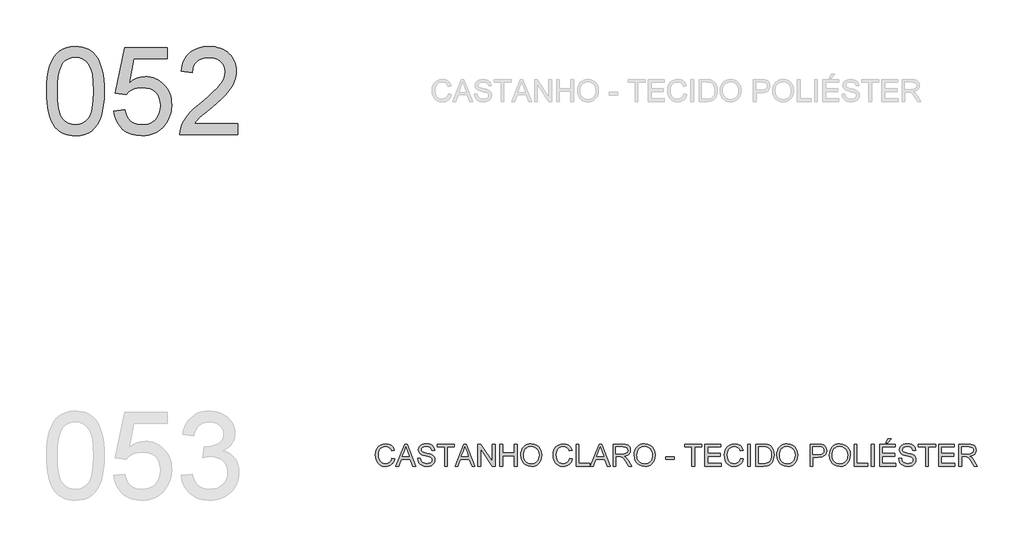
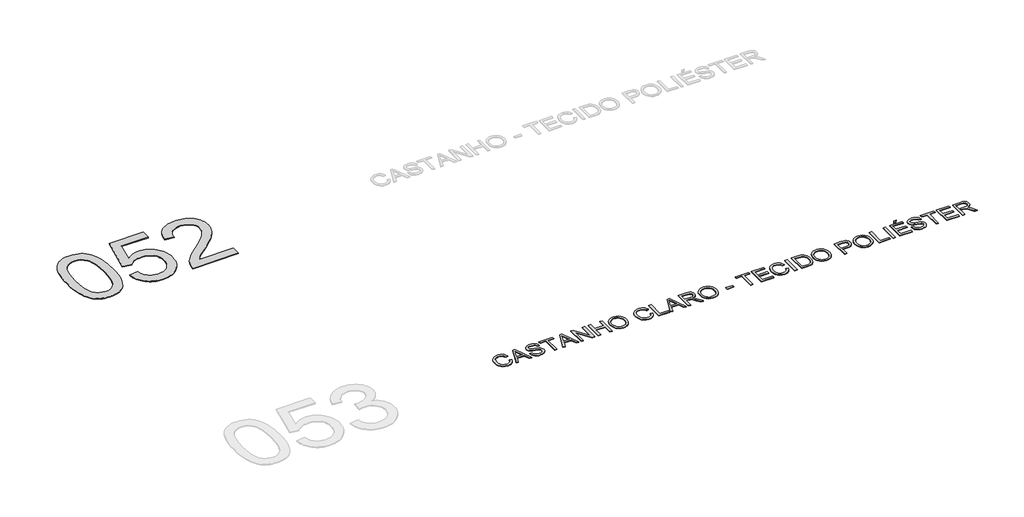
# One storey, part 22 of 35: 2 proxies.
"""IFC4 building model written with IfcOpenShell, lengths in millimetres."""

from ifc_helpers import new_model, si_unit, origin, origin_with_axes, place, context, project, spatial, polyline, outline, extrude, element, save

model = new_model("IFC4")

# Units and contexts
model_context = context("Model", 3, world=origin())
ifc_project = project(units=[si_unit("LENGTHUNIT", "METRE", prefix="MILLI")], contexts=[model_context])

# Site, building, storey
site = spatial("IfcSite", under=ifc_project)
building = spatial("IfcBuilding", under=site)
storey = spatial("IfcBuildingStorey", under=building, Name="Marelli - Linha YOU - Planta Baixa", Elevation=0.0)

# Proxies
placement = place(None, origin())
element("IfcBuildingElementProxy", 1, Name="1200mm Arial", ObjectType="1200mm Arial", at=placement, inside=storey, context=model_context, shape_type="SweptSolid", body=[
    extrude(outline(polyline([(-25228.2202746, -29887.5405438), (-25225.4519626, -29786.1798571), (-25217.1470265, -29694.5864374), (-25203.3054665, -29612.7602846), (-25183.9272824, -29540.7013988), (-25159.0952477, -29477.8211688), (-25128.8921359, -29423.5309833), (-25093.317947, -29377.8308425), (-25052.3726809, -29340.7207462), (-25005.918382, -29312.0075565), (-24953.8170944, -29291.4981353), (-24896.0688182, -29279.1924825), (-24832.6735534, -29275.0905983), (-24785.032835, -29277.5186194), (-24739.8201378, -29284.8026829), (-24697.0354618, -29296.9427888), (-24656.6788069, -29313.938937), (-24619.7250605, -29335.5060189), (-24587.1491098, -29361.3589261), (-24558.9509549, -29391.4976586), (-24535.1305957, -29425.9222163), (-24514.4924157, -29464.4946435), (-24495.8407986, -29507.0769844), (-24464.4972526, -29604.2714076), (-24452.5226937, -29661.4310726), (-24443.9694373, -29727.6958169), (-24438.8374834, -29803.0656407), (-24437.1268322, -29887.5405438), (-24439.867553, -29988.2574371), (-24448.0897156, -30079.3910043), (-24461.7933199, -30160.9412456), (-24480.978366, -30232.9081609), (-24505.6172626, -30295.8159821), (-24535.6824187, -30350.188941), (-24571.1738342, -30396.0270376), (-24612.0915091, -30433.3302719), (-24658.6009903, -30462.2365997), (-24710.8678248, -30482.8839766), (-24768.8920125, -30495.2724028), (-24832.6735534, -30499.4018782), (-24875.3478648, -30497.6084535), (-24915.6677315, -30492.2281793), (-24953.6331534, -30483.2610557), (-24989.2441305, -30470.7070826), (-25022.5006629, -30454.5662601), (-25053.4027505, -30434.8385881), (-25081.9503933, -30411.5240666), (-25108.1435914, -30384.6226957), (-25136.286564, -30342.0265592), (-25160.6771403, -30293.8478134), (-25181.3153202, -30240.0864583), (-25198.2011038, -30180.742494), (-25211.334491, -30115.8159204), (-25220.7154819, -30045.3067375), (-25226.3440764, -29969.2149453), (-25228.2202746, -29887.5405438)]), holes=[polyline([(-25077.5358094, -29887.2462382), (-25073.1212254, -30018.2398197), (-25059.8774736, -30124.2726077), (-25049.9446597, -30167.9287043), (-25037.8045539, -30205.3446024), (-25023.4571561, -30236.5203023), (-25006.9024663, -30261.4558037), (-24969.5256556, -30299.6327578), (-24928.0285665, -30326.9020107), (-24882.4111991, -30343.2635624), (-24832.6735534, -30348.717413), (-24782.9359076, -30343.2451683), (-24737.3185402, -30326.8284343), (-24695.8214512, -30299.4672109), (-24658.4446405, -30261.1614981), (-24641.8899507, -30236.1662158), (-24627.5425529, -30204.9583263), (-24615.402447, -30167.5378296), (-24605.4696332, -30123.9047257), (-24592.2258813, -30018.0006964), (-24587.8112974, -29887.2462382), (-24592.0787285, -29759.7199446), (-24604.881022, -29655.5541577), (-24614.482742, -29612.2314542), (-24626.2181777, -29574.7488774), (-24640.0873289, -29543.1064273), (-24656.0901957, -29517.3041039), (-24692.841607, -29477.2601487), (-24734.8169427, -29448.6573236), (-24782.0162026, -29431.4956285), (-24834.4393869, -29425.7750635), (-24883.9195153, -29430.8150468), (-24928.7643305, -29445.9349968), (-24968.9738326, -29471.1349135), (-25004.5480215, -29506.4147968), (-25021.6545343, -29534.9624397), (-25036.4801787, -29568.954736), (-25049.0249547, -29608.3916859), (-25059.2888624, -29653.2732893), (-25072.9740726, -29759.3704567), (-25077.5358094, -29887.2462382)])]), origin_with_axes(), (0.0, 0.0, 1.0), 10.0),
    extrude(outline(polyline([(-24305.2779251, -30160.3618315), (-24154.5934599, -30141.5262733), (-24143.3362708, -30189.967135), (-24126.9287338, -30231.9884559), (-24105.3708489, -30267.590236), (-24078.6626161, -30296.7724753), (-24046.8592176, -30319.4983855), (-24010.0158358, -30335.7311786), (-23968.1324706, -30345.4708544), (-23921.2091221, -30348.717413), (-23863.8195309, -30344.2016615), (-23813.1989683, -30330.654407), (-23769.3474345, -30308.0756496), (-23732.2649294, -30276.4653891), (-23702.7791875, -30237.3871242), (-23681.7179433, -30192.4043532), (-23669.0811967, -30141.5170763), (-23664.8689479, -30084.7252933), (-23668.8144823, -30031.0513102), (-23680.6510855, -29983.3370154), (-23700.3787575, -29941.5824089), (-23727.9974983, -29905.7874908), (-23763.5992783, -29877.0743011), (-23807.2760682, -29856.5648798), (-23859.0278679, -29844.2592271), (-23918.8546774, -29840.1573429), (-23957.141996, -29841.7944177), (-23991.9528298, -29846.7056424), (-24023.2871787, -29854.8910168), (-24051.1450428, -29866.3505409), (-24098.4178792, -29896.4432881), (-24135.7579017, -29934.3351336), (-24286.4423669, -29915.4995755), (-24154.5934599, -29293.9261564), (-23570.6911571, -29293.9261564), (-23570.6911571, -29444.6106216), (-24032.7509431, -29444.6106216), (-24097.2038686, -29776.5873341), (-24044.0265262, -29738.4747594), (-23989.5615968, -29711.2514918), (-23933.8090805, -29694.9175312), (-23876.7689771, -29689.4728776), (-23839.3300863, -29691.1605363), (-23803.3857161, -29696.2235123), (-23768.9358665, -29704.6618055), (-23735.9805376, -29716.4754161), (-23704.5197292, -29731.664344), (-23674.5534414, -29750.2285891), (-23646.0816742, -29772.1681516), (-23619.1044277, -29797.4830314), (-23594.5138156, -29825.4512601), (-23573.2019517, -29855.3508693), (-23555.1688362, -29887.1818589), (-23540.4144689, -29920.944229), (-23528.9388499, -29956.6379796), (-23520.7419792, -29994.2631106), (-23515.8238568, -30033.8196222), (-23514.1844827, -30075.3075142), (-23520.0889887, -30153.3720736), (-23527.4696212, -30190.3626082), (-23537.8025067, -30225.9919794), (-23551.0876453, -30260.2601873), (-23567.3250369, -30293.1672317), (-23586.5146814, -30324.7131128), (-23608.656579, -30354.8978305), (-23638.6573557, -30388.7659667), (-23671.2700946, -30418.1183514), (-23706.4947956, -30442.9549846), (-23744.3314588, -30463.2758663), (-23784.7800842, -30479.0809965), (-23827.8406717, -30490.3703752), (-23873.5132214, -30497.1440025), (-23921.7977333, -30499.4018782), (-23999.55879, -30493.5985397), (-24035.6181234, -30486.3443667), (-24069.79666, -30476.1885243), (-24102.0943999, -30463.1310128), (-24132.5113431, -30447.171832), (-24161.0474896, -30428.3109819), (-24187.7028394, -30406.5484626), (-24212.0405327, -30382.3901119), (-24233.6237095, -30356.3417673), (-24252.4523698, -30328.4034291), (-24268.5265138, -30298.5750971), (-24281.8461413, -30266.8567713), (-24292.4112523, -30233.2484518), (-24305.2779251, -30160.3618315)])), origin_with_axes(), (0.0, 0.0, 1.0), 10.0),
    extrude(outline(polyline([(-22610.0776913, -30329.8818548), (-22610.0776913, -30480.5663201), (-23401.1711337, -30480.5663201), (-23397.8601958, -30427.5177364), (-23384.984326, -30376.6764446), (-23368.5583949, -30335.7771638), (-23347.8282444, -30295.4848883), (-23322.7938747, -30255.7996181), (-23293.4552856, -30216.7213531), (-23258.0466435, -30176.7233832), (-23214.802115, -30134.278998), (-23104.8053984, -30042.0509818), (-23015.3732854, -29965.1084625), (-22942.2015566, -29897.6205105), (-22885.2902119, -29839.5871258), (-22844.6392514, -29791.0083083), (-22816.1835791, -29747.4510801), (-22795.8580989, -29704.482463), (-22783.6628107, -29662.1024572), (-22779.5977147, -29620.3110625), (-22783.4328845, -29580.9936743), (-22794.9383939, -29544.8584653), (-22814.1142429, -29511.9054356), (-22840.9604315, -29482.1345852), (-22873.9870376, -29457.4772944), (-22911.7041392, -29439.8649439), (-22954.1117362, -29429.2975336), (-23001.2098286, -29425.7750635), (-23050.8279127, -29429.2147602), (-23095.2036784, -29439.5338501), (-23134.3371256, -29456.7323334), (-23168.2282544, -29480.81021), (-23195.6446601, -29510.9581395), (-23215.353938, -29546.3667815), (-23227.3560881, -29587.0361361), (-23231.6511104, -29632.9662032), (-23382.3355756, -29614.130645), (-23369.3769323, -29536.3419971), (-23358.9175873, -29501.1310917), (-23345.8048935, -29468.3757985), (-23330.0388507, -29438.0761177), (-23311.6194591, -29410.2320492), (-23290.5467185, -29384.843593), (-23266.8206291, -29361.9107491), (-23240.6987082, -29341.5622763), (-23212.4384732, -29323.9269331), (-23182.0399241, -29309.0047197), (-23149.5030608, -29296.795636), (-23078.0143921, -29280.5168577), (-22997.972467, -29275.0905983), (-22917.213172, -29281.123863), (-22880.1651559, -29288.6654439), (-22845.3382272, -29299.2236572), (-22812.7323861, -29312.7985028), (-22782.3476326, -29329.3899808), (-22754.1839666, -29348.9980911), (-22728.2413882, -29371.6228338), (-22704.9613557, -29396.4824596), (-22684.7853275, -29422.7952193), (-22667.7133036, -29450.5611129), (-22653.7452841, -29479.7801404), (-22642.881269, -29510.4523017), (-22635.1212581, -29542.577597), (-22630.4652516, -29576.1560261), (-22628.9132495, -29611.1875891), (-22630.5871125, -29647.3779803), (-22635.6087018, -29683.2556719), (-22643.9780172, -29718.8206638), (-22655.6950587, -29754.072956), (-22671.3024524, -29789.6287508), (-22691.342824, -29826.1042506), (-22744.7225015, -29901.8143653), (-22781.5566863, -29943.798898), (-22829.813607, -29992.2029715), (-22960.5956563, -30108.2697409), (-23133.9416524, -30253.215247), (-23171.5391924, -30291.4381863), (-23201.9262452, -30329.8818548), (-22610.0776913, -30329.8818548)])), origin_with_axes(), (0.0, 0.0, 1.0), 10.0),
])
element("IfcBuildingElementProxy", 2, Name="300mm Arial", ObjectType="300mm Arial", at=placement, inside=storey, context=model_context, shape_type="SweptSolid", body=[
    extrude(outline(polyline([(-20494.6928783, -34923.4390831), (-20457.021762, -34933.1511677), (-20464.4759709, -34956.5783531), (-20474.4041863, -34977.0486868), (-20486.806408, -34994.5621691), (-20501.6826362, -35009.1187997), (-20518.6971785, -35020.5622291), (-20537.5143426, -35028.7361071), (-20558.1341284, -35033.640434), (-20580.556536, -35035.2752096), (-20624.25172, -35030.3271968), (-20658.9521892, -35015.4831583), (-20685.5500574, -34991.2581289), (-20704.9374386, -34958.1671434), (-20716.7740418, -34919.2636224), (-20720.7195762, -34877.6009865), (-20716.259007, -34833.6574821), (-20702.8772994, -34795.7104543), (-20681.2734292, -34764.9647166), (-20652.1463723, -34742.6250824), (-20617.6022529, -34729.0226457), (-20579.7471956, -34724.4885001), (-20538.4432446, -34730.3562179), (-20520.4745084, -34737.6908652), (-20504.2945984, -34747.9593714), (-20490.170229, -34760.8904235), (-20478.3681148, -34776.2127086), (-20461.7306515, -34814.0309777), (-20499.4017679, -34823.0072984), (-20512.4615787, -34795.5357104), (-20530.3038554, -34776.6909552), (-20553.1493273, -34765.7924511), (-20581.2187236, -34762.1596164), (-20613.5739451, -34766.1879242), (-20640.1534192, -34778.2728478), (-20660.3225496, -34797.1451941), (-20673.4467398, -34821.5357704), (-20680.6480298, -34849.1085259), (-20683.0484598, -34877.5274101), (-20680.2065714, -34912.3290468), (-20671.6809062, -34942.421794), (-20657.1495674, -34966.6560205), (-20636.2906583, -34983.8820949), (-20611.2838796, -34994.1735937), (-20584.3089323, -34997.6040933), (-20552.8642188, -34992.931992), (-20526.6618237, -34978.9156879), (-20506.8789694, -34955.702334), (-20494.6928783, -34923.4390831)])), origin_with_axes(), (0.0, 0.0, 1.0), 10.0),
    extrude(outline(polyline([(-20440.3199194, -35030.5663201), (-20320.022507, -34729.1973896), (-20287.943197, -34729.1973896), (-20167.6457846, -35030.5663201), (-20207.4506165, -35030.5663201), (-20241.9579476, -34936.3885293), (-20366.0813328, -34936.3885293), (-20400.5150876, -35030.5663201), (-20440.3199194, -35030.5663201)]), holes=[polyline([(-20352.2489698, -34898.717413), (-20255.7167342, -34898.717413), (-20282.8664255, -34824.6259792), (-20303.982852, -34766.8685059), (-20322.7448338, -34818.1512561), (-20352.2489698, -34898.717413)])]), origin_with_axes(), (0.0, 0.0, 1.0), 10.0),
    extrude(outline(polyline([(-20141.5261629, -34926.9707502), (-20103.8550466, -34926.9707502), (-20099.5324332, -34947.8756446), (-20091.7149408, -34964.6786547), (-20079.5196527, -34978.0143771), (-20062.063652, -34988.517408), (-20040.7264963, -34995.332422), (-20016.887743, -34997.6040933), (-19995.9000752, -34995.884245), (-19977.5243695, -34990.7247), (-19962.6343457, -34982.5577197), (-19952.1037236, -34971.8155654), (-19945.8405327, -34959.4823215), (-19943.7528023, -34946.5420724), (-19945.3163008, -34933.932917), (-19950.0067963, -34923.0344129), (-19959.5349399, -34913.7361954), (-19975.6113831, -34905.9279001), (-20030.4625886, -34891.5437141), (-20066.4690389, -34882.0247675), (-20089.5076488, -34872.9656733), (-20108.2604335, -34860.2921386), (-20121.5501706, -34844.9330653), (-20129.4688306, -34827.2195472), (-20132.1083839, -34807.4826782), (-20128.8434312, -34785.4189555), (-20119.048573, -34764.845155), (-20102.9813269, -34747.4075484), (-20080.8992101, -34734.7524077), (-20054.3933124, -34727.054477), (-20025.0547233, -34724.4885001), (-19993.2697189, -34727.1740386), (-19965.4578401, -34735.2306543), (-19942.6123682, -34748.4928003), (-19925.7265846, -34766.7949295), (-19915.0396126, -34788.9966079), (-19910.7905756, -34813.9574013), (-19948.4616919, -34813.9574013), (-19955.3778734, -34791.4798114), (-19969.7988476, -34775.2562154), (-19992.3316198, -34765.4337661), (-20023.5831953, -34762.1596164), (-20055.5705348, -34765.3969779), (-20077.5146958, -34775.1090626), (-20090.2066246, -34789.4012781), (-20094.4372676, -34806.3790322), (-20091.4390293, -34820.8551887), (-20082.4443145, -34832.4986539), (-20061.1807352, -34842.9097143), (-20020.9344449, -34853.541504), (-19979.4005677, -34863.6398648), (-19954.2742274, -34872.4506385), (-19932.7991159, -34886.1174547), (-19917.8171217, -34902.9848441), (-19909.0155449, -34922.868866), (-19906.081686, -34945.5855792), (-19909.4570033, -34968.8081301), (-19919.5829553, -34990.6511236), (-19936.0456745, -35009.4498935), (-19958.4312939, -35023.539774), (-19985.3510589, -35032.3413507), (-20015.416215, -35035.2752096), (-20052.3239762, -35032.1114244), (-20082.7018319, -35022.620069), (-20106.8992702, -35006.764355), (-20125.2657788, -34984.5074943), (-20137.0563967, -34957.3945912), (-20141.5261629, -34926.9707502)])), origin_with_axes(), (0.0, 0.0, 1.0), 10.0),
    extrude(outline(polyline([(-19774.232779, -35030.5663201), (-19774.232779, -34766.8685059), (-19873.1194593, -34766.8685059), (-19873.1194593, -34729.1973896), (-19637.6749824, -34729.1973896), (-19637.6749824, -34766.8685059), (-19736.5616627, -34766.8685059), (-19736.5616627, -35030.5663201), (-19774.232779, -35030.5663201)])), origin_with_axes(), (0.0, 0.0, 1.0), 10.0),
    extrude(outline(polyline([(-19630.3909188, -35030.5663201), (-19510.0935064, -34729.1973896), (-19478.0141964, -34729.1973896), (-19357.716784, -35030.5663201), (-19397.5216159, -35030.5663201), (-19432.028947, -34936.3885293), (-19556.1523322, -34936.3885293), (-19590.586087, -35030.5663201), (-19630.3909188, -35030.5663201)]), holes=[polyline([(-19542.3199692, -34898.717413), (-19445.7877337, -34898.717413), (-19472.9374249, -34824.6259792), (-19494.0538514, -34766.8685059), (-19512.8158332, -34818.1512561), (-19542.3199692, -34898.717413)])]), origin_with_axes(), (0.0, 0.0, 1.0), 10.0),
    extrude(outline(polyline([(-19317.4704938, -35030.5663201), (-19317.4704938, -34729.1973896), (-19277.1506271, -34729.1973896), (-19119.6971331, -34967.9528045), (-19119.6971331, -34729.1973896), (-19082.0260168, -34729.1973896), (-19082.0260168, -35030.5663201), (-19122.3458835, -35030.5663201), (-19279.7993774, -34791.7373288), (-19279.7993774, -35030.5663201), (-19317.4704938, -35030.5663201)])), origin_with_axes(), (0.0, 0.0, 1.0), 10.0),
    extrude(outline(polyline([(-19016.1015633, -35030.5663201), (-19016.1015633, -34729.1973896), (-18978.430447, -34729.1973896), (-18978.430447, -34851.6285176), (-18818.3282027, -34851.6285176), (-18818.3282027, -34729.1973896), (-18780.6570864, -34729.1973896), (-18780.6570864, -35030.5663201), (-18818.3282027, -35030.5663201), (-18818.3282027, -34889.2996339), (-18978.430447, -34889.2996339), (-18978.430447, -35030.5663201), (-19016.1015633, -35030.5663201)])), origin_with_axes(), (0.0, 0.0, 1.0), 10.0),
    extrude(outline(polyline([(-18728.8593015, -34883.8549804), (-18726.3485069, -34848.5061192), (-18718.816123, -34817.213157), (-18706.2621499, -34789.9760937), (-18688.6865876, -34766.7949295), (-18667.1424983, -34748.2858666), (-18642.6829441, -34735.0651074), (-18615.3079251, -34727.1326519), (-18585.0174414, -34724.4885001), (-18545.488521, -34729.454907), (-18510.0430907, -34744.3541278), (-18480.6125311, -34768.1376988), (-18459.1282226, -34799.7571563), (-18445.9948354, -34837.68579), (-18441.6170396, -34880.3968896), (-18446.2247616, -34923.6782064), (-18460.0479276, -34962.140269), (-18482.3231824, -34993.8149087), (-18512.2871709, -35016.733957), (-18547.4290985, -35030.6398965), (-18585.2381706, -35035.2752096), (-18625.3740962, -35030.1524528), (-18661.0218616, -35014.7841825), (-18690.3788448, -34990.5591531), (-18711.6424241, -34958.8661192), (-18724.5550821, -34922.3998164), (-18728.8593015, -34883.8549804)]), holes=[polyline([(-18691.1881852, -34884.2228624), (-18689.3050892, -34909.1974513), (-18683.6558013, -34931.3669401), (-18674.2403215, -34950.7313286), (-18661.0586498, -34967.2906169), (-18645.0350896, -34980.5527628), (-18627.0939446, -34990.0257242), (-18607.2352146, -34995.709501), (-18585.4588997, -34997.6040933), (-18563.3101044, -34995.6911069), (-18543.2168497, -34989.9521478), (-18525.1791356, -34980.3872159), (-18509.1969621, -34966.9963113), (-18496.1118594, -34950.0875351), (-18486.7653575, -34929.9689885), (-18481.1574563, -34906.6406715), (-18479.2881559, -34880.102584), (-18482.4887293, -34846.7540812), (-18492.0904494, -34817.9305269), (-18507.8449958, -34794.358488), (-18529.5040483, -34776.7645316), (-18555.632867, -34765.8108452), (-18584.7967122, -34762.1596164), (-18605.8165697, -34763.9185522), (-18625.3189139, -34769.1953595), (-18643.303745, -34777.9900385), (-18659.7710628, -34790.302589), (-18673.5160538, -34806.7262208), (-18683.3339046, -34827.8541437), (-18689.224615, -34853.6863575), (-18691.1881852, -34884.2228624)])]), origin_with_axes(), (0.0, 0.0, 1.0), 10.0),
    extrude(outline(polyline([(-18060.196987, -34923.4390831), (-18022.5258707, -34933.1511677), (-18029.9800797, -34956.5783531), (-18039.908295, -34977.0486868), (-18052.3105168, -34994.5621691), (-18067.1867449, -35009.1187997), (-18084.2012872, -35020.5622291), (-18103.0184513, -35028.7361071), (-18123.6382371, -35033.640434), (-18146.0606447, -35035.2752096), (-18189.7558287, -35030.3271968), (-18224.4562979, -35015.4831583), (-18251.0541661, -34991.2581289), (-18270.4415473, -34958.1671434), (-18282.2781505, -34919.2636224), (-18286.2236849, -34877.6009865), (-18281.7631157, -34833.6574821), (-18268.3814081, -34795.7104543), (-18246.7775379, -34764.9647166), (-18217.650481, -34742.6250824), (-18183.1063616, -34729.0226457), (-18145.2513043, -34724.4885001), (-18103.9473533, -34730.3562179), (-18085.9786171, -34737.6908652), (-18069.7987071, -34747.9593714), (-18055.6743378, -34760.8904235), (-18043.8722235, -34776.2127086), (-18027.2347603, -34814.0309777), (-18064.9058766, -34823.0072984), (-18077.9656874, -34795.5357104), (-18095.8079642, -34776.6909552), (-18118.6534361, -34765.7924511), (-18146.7228323, -34762.1596164), (-18179.0780538, -34766.1879242), (-18205.6575279, -34778.2728478), (-18225.8266583, -34797.1451941), (-18238.9508485, -34821.5357704), (-18246.1521385, -34849.1085259), (-18248.5525686, -34877.5274101), (-18245.7106802, -34912.3290468), (-18237.1850149, -34942.421794), (-18222.6536761, -34966.6560205), (-18201.794767, -34983.8820949), (-18176.7879884, -34994.1735937), (-18149.8130411, -34997.6040933), (-18118.3683275, -34992.931992), (-18092.1659324, -34978.9156879), (-18072.3830781, -34955.702334), (-18060.196987, -34923.4390831)])), origin_with_axes(), (0.0, 0.0, 1.0), 10.0),
    extrude(outline(polyline([(-17970.7280858, -35030.5663201), (-17970.7280858, -34729.1973896), (-17933.0569695, -34729.1973896), (-17933.0569695, -34992.8952038), (-17782.3725043, -34992.8952038), (-17782.3725043, -35030.5663201), (-17970.7280858, -35030.5663201)])), origin_with_axes(), (0.0, 0.0, 1.0), 10.0),
    extrude(outline(polyline([(-17775.0884408, -35030.5663201), (-17654.7910283, -34729.1973896), (-17622.7117184, -34729.1973896), (-17502.4143059, -35030.5663201), (-17542.2191378, -35030.5663201), (-17576.726469, -34936.3885293), (-17700.8498541, -34936.3885293), (-17735.2836089, -35030.5663201), (-17775.0884408, -35030.5663201)]), holes=[polyline([(-17687.0174911, -34898.717413), (-17590.4852556, -34898.717413), (-17617.6349468, -34824.6259792), (-17638.7513734, -34766.8685059), (-17657.5133551, -34818.1512561), (-17687.0174911, -34898.717413)])]), origin_with_axes(), (0.0, 0.0, 1.0), 10.0),
    extrude(outline(polyline([(-17462.1680157, -35030.5663201), (-17462.1680157, -34729.1973896), (-17332.3056714, -34729.1973896), (-17297.4028671, -34731.2299376), (-17272.0098124, -34737.3275817), (-17253.4501657, -34748.5847708), (-17239.0475856, -34766.0959537), (-17229.8045505, -34787.8101885), (-17226.7235388, -34811.6765329), (-17231.8279014, -34841.3646099), (-17247.1409895, -34865.9759154), (-17258.7407687, -34876.0052983), (-17273.1226554, -34884.0205273), (-17310.2327517, -34894.0085235), (-17288.8220195, -34910.1217548), (-17258.2878139, -34948.8965171), (-17208.0351334, -35030.5663201), (-17251.8130908, -35030.5663201), (-17291.0293115, -34968.0999573), (-17319.3562251, -34926.750021), (-17339.2586411, -34907.2154871), (-17357.1744943, -34900.0417882), (-17379.0266848, -34898.717413), (-17424.4968994, -34898.717413), (-17424.4968994, -35030.5663201), (-17462.1680157, -35030.5663201)]), holes=[polyline([(-17424.4968994, -34861.0462967), (-17340.1783461, -34861.0462967), (-17315.9625137, -34859.7127245), (-17297.1729408, -34855.7120078), (-17283.0278781, -34848.7774322), (-17272.7455764, -34838.6422832), (-17266.4823854, -34826.3826157), (-17264.3946551, -34813.0744845), (-17268.3769777, -34794.6987789), (-17280.3239455, -34779.8915286), (-17300.8793519, -34770.1242616), (-17330.6869906, -34766.8685059), (-17424.4968994, -34766.8685059), (-17424.4968994, -34861.0462967)])]), origin_with_axes(), (0.0, 0.0, 1.0), 10.0),
    extrude(outline(polyline([(-17174.9257538, -34883.8549804), (-17172.4149592, -34848.5061192), (-17164.8825754, -34817.213157), (-17152.3286023, -34789.9760937), (-17134.75304, -34766.7949295), (-17113.2089506, -34748.2858666), (-17088.7493965, -34735.0651074), (-17061.3743775, -34727.1326519), (-17031.0838937, -34724.4885001), (-16991.5549733, -34729.454907), (-16956.1095431, -34744.3541278), (-16926.6789835, -34768.1376988), (-16905.194675, -34799.7571563), (-16892.0612877, -34837.68579), (-16887.683492, -34880.3968896), (-16892.291214, -34923.6782064), (-16906.11438, -34962.140269), (-16928.3896348, -34993.8149087), (-16958.3536233, -35016.733957), (-16993.4955509, -35030.6398965), (-17031.3046229, -35035.2752096), (-17071.4405486, -35030.1524528), (-17107.0883139, -35014.7841825), (-17136.4452971, -34990.5591531), (-17157.7088765, -34958.8661192), (-17170.6215345, -34922.3998164), (-17174.9257538, -34883.8549804)]), holes=[polyline([(-17137.2546375, -34884.2228624), (-17135.3715416, -34909.1974513), (-17129.7222537, -34931.3669401), (-17120.3067739, -34950.7313286), (-17107.1251021, -34967.2906169), (-17091.101542, -34980.5527628), (-17073.1603969, -34990.0257242), (-17053.301667, -34995.709501), (-17031.5253521, -34997.6040933), (-17009.3765567, -34995.6911069), (-16989.283302, -34989.9521478), (-16971.2455879, -34980.3872159), (-16955.2634145, -34966.9963113), (-16942.1783118, -34950.0875351), (-16932.8318099, -34929.9689885), (-16927.2239087, -34906.6406715), (-16925.3546083, -34880.102584), (-16928.5551817, -34846.7540812), (-16938.1569017, -34817.9305269), (-16953.9114482, -34794.358488), (-16975.5705007, -34776.7645316), (-17001.6993194, -34765.8108452), (-17030.8631645, -34762.1596164), (-17051.883022, -34763.9185522), (-17071.3853663, -34769.1953595), (-17089.3701973, -34777.9900385), (-17105.8375151, -34790.302589), (-17119.5825062, -34806.7262208), (-17129.4003569, -34827.8541437), (-17135.2910674, -34853.6863575), (-17137.2546375, -34884.2228624)])]), origin_with_axes(), (0.0, 0.0, 1.0), 10.0),
    extrude(outline(polyline([(-16741.7079163, -34941.0974188), (-16741.7079163, -34903.4263025), (-16623.9856779, -34903.4263025), (-16623.9856779, -34941.0974188), (-16741.7079163, -34941.0974188)])), origin_with_axes(), (0.0, 0.0, 1.0), 10.0),
    extrude(outline(polyline([(-16383.8323114, -35030.5663201), (-16383.8323114, -34766.8685059), (-16482.7189917, -34766.8685059), (-16482.7189917, -34729.1973896), (-16247.2745148, -34729.1973896), (-16247.2745148, -34766.8685059), (-16346.1611951, -34766.8685059), (-16346.1611951, -35030.5663201), (-16383.8323114, -35030.5663201)])), origin_with_axes(), (0.0, 0.0, 1.0), 10.0),
    extrude(outline(polyline([(-16204.894509, -35030.5663201), (-16204.894509, -34729.1973896), (-15988.2855902, -34729.1973896), (-15988.2855902, -34766.8685059), (-16167.2233927, -34766.8685059), (-16167.2233927, -34856.3374072), (-15997.7033693, -34856.3374072), (-15997.7033693, -34894.0085235), (-16167.2233927, -34894.0085235), (-16167.2233927, -34992.8952038), (-15983.5767007, -34992.8952038), (-15983.5767007, -35030.5663201), (-16204.894509, -35030.5663201)])), origin_with_axes(), (0.0, 0.0, 1.0), 10.0),
    extrude(outline(polyline([(-15715.169997, -34923.4390831), (-15677.4988807, -34933.1511677), (-15684.9530896, -34956.5783531), (-15694.8813049, -34977.0486868), (-15707.2835267, -34994.5621691), (-15722.1597549, -35009.1187997), (-15739.1742972, -35020.5622291), (-15757.9914612, -35028.7361071), (-15778.611247, -35033.640434), (-15801.0336547, -35035.2752096), (-15844.7288386, -35030.3271968), (-15879.4293078, -35015.4831583), (-15906.0271761, -34991.2581289), (-15925.4145572, -34958.1671434), (-15937.2511604, -34919.2636224), (-15941.1966948, -34877.6009865), (-15936.7361256, -34833.6574821), (-15923.354418, -34795.7104543), (-15901.7505479, -34764.9647166), (-15872.6234909, -34742.6250824), (-15838.0793716, -34729.0226457), (-15800.2243143, -34724.4885001), (-15758.9203633, -34730.3562179), (-15740.9516271, -34737.6908652), (-15724.7717171, -34747.9593714), (-15710.6473477, -34760.8904235), (-15698.8452334, -34776.2127086), (-15682.2077702, -34814.0309777), (-15719.8788865, -34823.0072984), (-15732.9386973, -34795.5357104), (-15750.7809741, -34776.6909552), (-15773.626446, -34765.7924511), (-15801.6958422, -34762.1596164), (-15834.0510637, -34766.1879242), (-15860.6305379, -34778.2728478), (-15880.7996683, -34797.1451941), (-15893.9238584, -34821.5357704), (-15901.1251485, -34849.1085259), (-15903.5255785, -34877.5274101), (-15900.6836901, -34912.3290468), (-15892.1580249, -34942.421794), (-15877.626686, -34966.6560205), (-15856.7677769, -34983.8820949), (-15831.7609983, -34994.1735937), (-15804.786051, -34997.6040933), (-15773.3413375, -34992.931992), (-15747.1389424, -34978.9156879), (-15727.3560881, -34955.702334), (-15715.169997, -34923.4390831)])), origin_with_axes(), (0.0, 0.0, 1.0), 10.0),
    extrude(outline(polyline([(-15620.9922062, -35030.5663201), (-15620.9922062, -34729.1973896), (-15583.3210899, -34729.1973896), (-15583.3210899, -35030.5663201), (-15620.9922062, -35030.5663201)])), origin_with_axes(), (0.0, 0.0, 1.0), 10.0),
    extrude(outline(polyline([(-15507.9788573, -35030.5663201), (-15507.9788573, -34729.1973896), (-15404.0154055, -34729.1973896), (-15350.2310578, -34733.5383972), (-15326.2083635, -34741.9077126), (-15305.9380655, -34755.0962821), (-15285.0975505, -34778.0521186), (-15270.253512, -34806.5997614), (-15261.3691618, -34840.1873876), (-15258.4077118, -34878.2631741), (-15260.4126686, -34910.6091985), (-15266.4275393, -34939.0740679), (-15275.5878009, -34963.3082943), (-15287.028931, -34982.9623899), (-15300.1991064, -34998.477813), (-15314.5465042, -35010.2960221), (-15331.0184206, -35019.0608107), (-15350.5621516, -35025.4159721), (-15399.0122103, -35030.5663201), (-15507.9788573, -35030.5663201)]), holes=[polyline([(-15470.307741, -34992.8952038), (-15403.6475235, -34992.8952038), (-15376.0747679, -34991.5340404), (-15355.1606765, -34987.4505502), (-15339.3785389, -34980.8838566), (-15327.2016449, -34972.0730828), (-15314.1142429, -34955.7667134), (-15304.2825966, -34934.6594839), (-15298.1297702, -34908.6594239), (-15296.0788281, -34877.6745629), (-15300.0979389, -34836.6189322), (-15312.1552713, -34806.3054558), (-15329.9699569, -34785.4833349), (-15351.2611274, -34772.9017706), (-15372.9293769, -34768.3768221), (-15404.677593, -34766.8685059), (-15470.307741, -34766.8685059), (-15470.307741, -34992.8952038)])]), origin_with_axes(), (0.0, 0.0, 1.0), 10.0),
    extrude(outline(polyline([(-15220.7365955, -34883.8549804), (-15218.2258008, -34848.5061192), (-15210.693417, -34817.213157), (-15198.1394439, -34789.9760937), (-15180.5638816, -34766.7949295), (-15159.0197922, -34748.2858666), (-15134.5602381, -34735.0651074), (-15107.1852191, -34727.1326519), (-15076.8947353, -34724.4885001), (-15037.365815, -34729.454907), (-15001.9203847, -34744.3541278), (-14972.4898251, -34768.1376988), (-14951.0055166, -34799.7571563), (-14937.8721294, -34837.68579), (-14933.4943336, -34880.3968896), (-14938.1020556, -34923.6782064), (-14951.9252216, -34962.140269), (-14974.2004764, -34993.8149087), (-15004.1644649, -35016.733957), (-15039.3063925, -35030.6398965), (-15077.1154645, -35035.2752096), (-15117.2513902, -35030.1524528), (-15152.8991556, -35014.7841825), (-15182.2561388, -34990.5591531), (-15203.5197181, -34958.8661192), (-15216.4323761, -34922.3998164), (-15220.7365955, -34883.8549804)]), holes=[polyline([(-15183.0654792, -34884.2228624), (-15181.1823832, -34909.1974513), (-15175.5330953, -34931.3669401), (-15166.1176155, -34950.7313286), (-15152.9359438, -34967.2906169), (-15136.9123836, -34980.5527628), (-15118.9712385, -34990.0257242), (-15099.1125086, -34995.709501), (-15077.3361937, -34997.6040933), (-15055.1873984, -34995.6911069), (-15035.0941436, -34989.9521478), (-15017.0564296, -34980.3872159), (-15001.0742561, -34966.9963113), (-14987.9891534, -34950.0875351), (-14978.6426515, -34929.9689885), (-14973.0347503, -34906.6406715), (-14971.1654499, -34880.102584), (-14974.3660233, -34846.7540812), (-14983.9677434, -34817.9305269), (-14999.7222898, -34794.358488), (-15021.3813423, -34776.7645316), (-15047.510161, -34765.8108452), (-15076.6740062, -34762.1596164), (-15097.6938636, -34763.9185522), (-15117.1962079, -34769.1953595), (-15135.181039, -34777.9900385), (-15151.6483568, -34790.302589), (-15165.3933478, -34806.7262208), (-15175.2111986, -34827.8541437), (-15181.101909, -34853.6863575), (-15183.0654792, -34884.2228624)])]), origin_with_axes(), (0.0, 0.0, 1.0), 10.0),
    extrude(outline(polyline([(-14763.9743103, -35030.5663201), (-14763.9743103, -34729.1973896), (-14652.2853365, -34729.1973896), (-14607.2565803, -34732.0668692), (-14587.1794204, -34737.4287493), (-14570.6523218, -34746.1567496), (-14557.3441906, -34758.6463433), (-14546.9239331, -34775.2930036), (-14540.1916926, -34794.9287051), (-14537.9476124, -34816.3854225), (-14539.4628264, -34834.8852883), (-14544.0084683, -34851.9044291), (-14551.5845381, -34867.4428449), (-14562.1910359, -34881.5005356), (-14576.7522651, -34893.1531978), (-14596.1925293, -34901.476528), (-14620.5118284, -34906.470526), (-14649.7101625, -34908.1351921), (-14726.3031939, -34908.1351921), (-14726.3031939, -35030.5663201), (-14763.9743103, -35030.5663201)]), holes=[polyline([(-14726.3031939, -34870.4640758), (-14647.5028706, -34870.4640758), (-14614.0991854, -34867.005985), (-14592.0262657, -34856.6317127), (-14579.720613, -34839.9850525), (-14575.6187287, -34817.7097977), (-14578.0375528, -34800.7872259), (-14585.2940252, -34786.5134045), (-14596.4868349, -34775.7712502), (-14610.7146711, -34769.4436799), (-14648.3857874, -34766.8685059), (-14726.3031939, -34766.8685059), (-14726.3031939, -34870.4640758)])]), origin_with_axes(), (0.0, 0.0, 1.0), 10.0),
    extrude(outline(polyline([(-14500.2764961, -34883.8549804), (-14497.7657015, -34848.5061192), (-14490.2333176, -34817.213157), (-14477.6793446, -34789.9760937), (-14460.1037822, -34766.7949295), (-14438.5596929, -34748.2858666), (-14414.1001387, -34735.0651074), (-14386.7251198, -34727.1326519), (-14356.434636, -34724.4885001), (-14316.9057156, -34729.454907), (-14281.4602854, -34744.3541278), (-14252.0297258, -34768.1376988), (-14230.5454172, -34799.7571563), (-14217.41203, -34837.68579), (-14213.0342343, -34880.3968896), (-14217.6419563, -34923.6782064), (-14231.4651222, -34962.140269), (-14253.740377, -34993.8149087), (-14283.7043655, -35016.733957), (-14318.8462931, -35030.6398965), (-14356.6553652, -35035.2752096), (-14396.7912909, -35030.1524528), (-14432.4390562, -35014.7841825), (-14461.7960394, -34990.5591531), (-14483.0596187, -34958.8661192), (-14495.9722768, -34922.3998164), (-14500.2764961, -34883.8549804)]), holes=[polyline([(-14462.6053798, -34884.2228624), (-14460.7222838, -34909.1974513), (-14455.0729959, -34931.3669401), (-14445.6575161, -34950.7313286), (-14432.4758444, -34967.2906169), (-14416.4522842, -34980.5527628), (-14398.5111392, -34990.0257242), (-14378.6524092, -34995.709501), (-14356.8760944, -34997.6040933), (-14334.727299, -34995.6911069), (-14314.6340443, -34989.9521478), (-14296.5963302, -34980.3872159), (-14280.6141568, -34966.9963113), (-14267.5290541, -34950.0875351), (-14258.1825521, -34929.9689885), (-14252.574651, -34906.6406715), (-14250.7053506, -34880.102584), (-14253.9059239, -34846.7540812), (-14263.507644, -34817.9305269), (-14279.2621905, -34794.358488), (-14300.9212429, -34776.7645316), (-14327.0500616, -34765.8108452), (-14356.2139068, -34762.1596164), (-14377.2337643, -34763.9185522), (-14396.7361086, -34769.1953595), (-14414.7209396, -34777.9900385), (-14431.1882574, -34790.302589), (-14444.9332485, -34806.7262208), (-14454.7510992, -34827.8541437), (-14460.6418097, -34853.6863575), (-14462.6053798, -34884.2228624)])]), origin_with_axes(), (0.0, 0.0, 1.0), 10.0),
    extrude(outline(polyline([(-14161.2364494, -35030.5663201), (-14161.2364494, -34729.1973896), (-14123.565333, -34729.1973896), (-14123.565333, -34992.8952038), (-13972.8808678, -34992.8952038), (-13972.8808678, -35030.5663201), (-14161.2364494, -35030.5663201)])), origin_with_axes(), (0.0, 0.0, 1.0), 10.0),
    extrude(outline(polyline([(-13925.7919724, -35030.5663201), (-13925.7919724, -34729.1973896), (-13888.1208561, -34729.1973896), (-13888.1208561, -35030.5663201), (-13925.7919724, -35030.5663201)])), origin_with_axes(), (0.0, 0.0, 1.0), 10.0),
    extrude(outline(polyline([(-13812.7786235, -35030.5663201), (-13812.7786235, -34729.1973896), (-13596.1697048, -34729.1973896), (-13596.1697048, -34766.8685059), (-13775.1075072, -34766.8685059), (-13775.1075072, -34856.3374072), (-13605.5874838, -34856.3374072), (-13605.5874838, -34894.0085235), (-13775.1075072, -34894.0085235), (-13775.1075072, -34992.8952038), (-13591.4608152, -34992.8952038), (-13591.4608152, -35030.5663201), (-13812.7786235, -35030.5663201)])), origin_with_axes(), (0.0, 0.0, 1.0), 10.0),
    extrude(outline(polyline([(-13728.0186118, -34710.3618315), (-13699.7652746, -34653.855157), (-13652.6763792, -34653.855157), (-13699.7652746, -34710.3618315), (-13728.0186118, -34710.3618315)])), origin_with_axes(), (0.0, 0.0, 1.0), 10.0),
    extrude(outline(polyline([(-13549.0808094, -34926.9707502), (-13511.4096931, -34926.9707502), (-13507.0870796, -34947.8756446), (-13499.2695872, -34964.6786547), (-13487.0742991, -34978.0143771), (-13469.6182984, -34988.517408), (-13448.2811427, -34995.332422), (-13424.4423894, -34997.6040933), (-13403.4547216, -34995.884245), (-13385.0790159, -34990.7247), (-13370.1889922, -34982.5577197), (-13359.6583701, -34971.8155654), (-13353.3951791, -34959.4823215), (-13351.3074488, -34946.5420724), (-13352.8709473, -34933.932917), (-13357.5614427, -34923.0344129), (-13367.0895864, -34913.7361954), (-13383.1660296, -34905.9279001), (-13438.017235, -34891.5437141), (-13474.0236853, -34882.0247675), (-13497.0622953, -34872.9656733), (-13515.81508, -34860.2921386), (-13529.104817, -34844.9330653), (-13537.023477, -34827.2195472), (-13539.6630303, -34807.4826782), (-13536.3980776, -34785.4189555), (-13526.6032195, -34764.845155), (-13510.5359733, -34747.4075484), (-13488.4538566, -34734.7524077), (-13461.9479588, -34727.054477), (-13432.6093697, -34724.4885001), (-13400.8243653, -34727.1740386), (-13373.0124865, -34735.2306543), (-13350.1670146, -34748.4928003), (-13333.281231, -34766.7949295), (-13322.594259, -34788.9966079), (-13318.345222, -34813.9574013), (-13356.0163383, -34813.9574013), (-13362.9325198, -34791.4798114), (-13377.353494, -34775.2562154), (-13399.8862662, -34765.4337661), (-13431.1378417, -34762.1596164), (-13463.1251812, -34765.3969779), (-13485.0693422, -34775.1090626), (-13497.7612711, -34789.4012781), (-13501.991914, -34806.3790322), (-13498.9936757, -34820.8551887), (-13489.998961, -34832.4986539), (-13468.7353816, -34842.9097143), (-13428.4890914, -34853.541504), (-13386.9552141, -34863.6398648), (-13361.8288738, -34872.4506385), (-13340.3537624, -34886.1174547), (-13325.3717681, -34902.9848441), (-13316.5701914, -34922.868866), (-13313.6363325, -34945.5855792), (-13317.0116498, -34968.8081301), (-13327.1376017, -34990.6511236), (-13343.600321, -35009.4498935), (-13365.9859404, -35023.539774), (-13392.9057054, -35032.3413507), (-13422.9708614, -35035.2752096), (-13459.8786226, -35032.1114244), (-13490.2564783, -35022.620069), (-13514.4539166, -35006.764355), (-13532.8204252, -34984.5074943), (-13544.6110431, -34957.3945912), (-13549.0808094, -34926.9707502)])), origin_with_axes(), (0.0, 0.0, 1.0), 10.0),
    extrude(outline(polyline([(-13181.7874254, -35030.5663201), (-13181.7874254, -34766.8685059), (-13280.6741057, -34766.8685059), (-13280.6741057, -34729.1973896), (-13045.2296288, -34729.1973896), (-13045.2296288, -34766.8685059), (-13144.1163091, -34766.8685059), (-13144.1163091, -35030.5663201), (-13181.7874254, -35030.5663201)])), origin_with_axes(), (0.0, 0.0, 1.0), 10.0),
    extrude(outline(polyline([(-13002.8496229, -35030.5663201), (-13002.8496229, -34729.1973896), (-12786.2407042, -34729.1973896), (-12786.2407042, -34766.8685059), (-12965.1785066, -34766.8685059), (-12965.1785066, -34856.3374072), (-12795.6584833, -34856.3374072), (-12795.6584833, -34894.0085235), (-12965.1785066, -34894.0085235), (-12965.1785066, -34992.8952038), (-12781.5318146, -34992.8952038), (-12781.5318146, -35030.5663201), (-13002.8496229, -35030.5663201)])), origin_with_axes(), (0.0, 0.0, 1.0), 10.0),
    extrude(outline(polyline([(-12725.0251402, -35030.5663201), (-12725.0251402, -34729.1973896), (-12595.1627959, -34729.1973896), (-12560.2599916, -34731.2299376), (-12534.8669369, -34737.3275817), (-12516.3072902, -34748.5847708), (-12501.9047101, -34766.0959537), (-12492.661675, -34787.8101885), (-12489.5806633, -34811.6765329), (-12494.685026, -34841.3646099), (-12509.998114, -34865.9759154), (-12521.5978932, -34876.0052983), (-12535.9797799, -34884.0205273), (-12573.0898762, -34894.0085235), (-12551.6791441, -34910.1217548), (-12521.1449385, -34948.8965171), (-12470.8922579, -35030.5663201), (-12514.6702153, -35030.5663201), (-12553.886436, -34968.0999573), (-12582.2133497, -34926.750021), (-12602.1157656, -34907.2154871), (-12620.0316188, -34900.0417882), (-12641.8838093, -34898.717413), (-12687.3540239, -34898.717413), (-12687.3540239, -35030.5663201), (-12725.0251402, -35030.5663201)]), holes=[polyline([(-12687.3540239, -34861.0462967), (-12603.0354706, -34861.0462967), (-12578.8196382, -34859.7127245), (-12560.0300653, -34855.7120078), (-12545.8850026, -34848.7774322), (-12535.6027009, -34838.6422832), (-12529.3395099, -34826.3826157), (-12527.2517796, -34813.0744845), (-12531.2341022, -34794.6987789), (-12543.18107, -34779.8915286), (-12563.7364764, -34770.1242616), (-12593.5441151, -34766.8685059), (-12687.3540239, -34766.8685059), (-12687.3540239, -34861.0462967)])]), origin_with_axes(), (0.0, 0.0, 1.0), 10.0),
])

save(model, "model.ifc")
